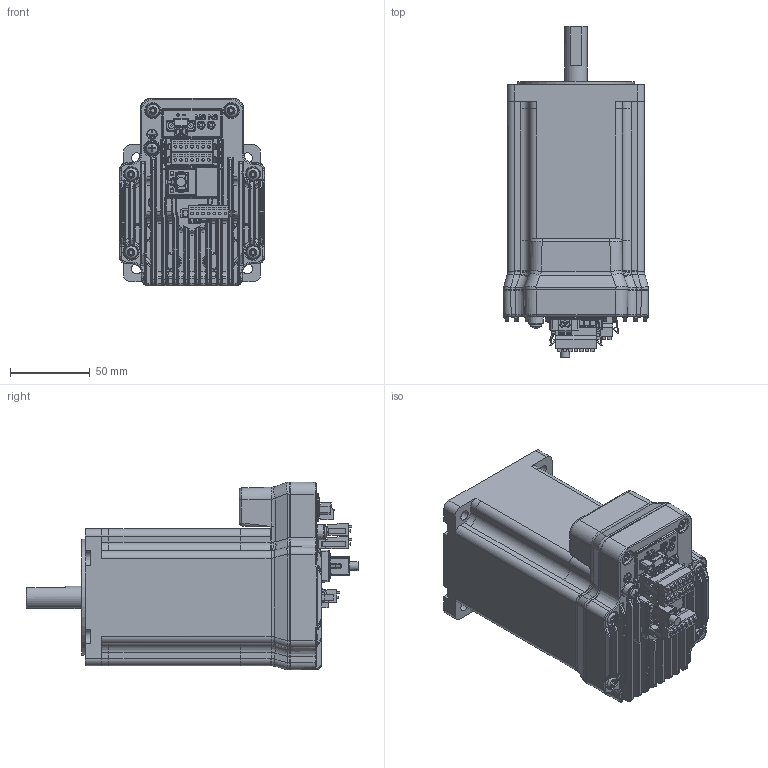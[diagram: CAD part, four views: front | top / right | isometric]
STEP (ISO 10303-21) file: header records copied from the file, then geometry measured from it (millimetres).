
FILE_DESCRIPTION(('LMDXE85 Triple-Stack Web Model.stp'),'1');
FILE_NAME('T:/Kubotek Models For Design Assemblies/On-Line web models/LMD34/LMDXE85 Triple-Stack Web Model.stp', '2013-04-05T15:11:13',('P. Bordua, 04/05/13'), ('Schneider Electric Motion USA'), 'KCM Version 1.1.514.0', 'Kubotek KeyCreator', 'Kubotek KeyCreator 2012 11.3.1');
FILE_SCHEMA(('AUTOMOTIVE_DESIGN'));
Length unit declared in the file: inch
Bounding box: 91.24 x 208.7 x 118.13 mm (x, y, z)
Volume: 1089892.7 mm3; surface area: 111310 mm2
Topology: 9 solids, 9 shells, 4727 faces, 11955 edges, 7505 vertices
Faces by surface type: plane 2601, cylinder 1115, bspline 784, sphere 87, torus 78, cone 60, extrusion 2
Full cylindrical faces by diameter (mm): 1.6 x31, 1.611 x4, 1.686 x28, 2.5 x2, 3.505 x1, 3.792 x4, 5.004 x2, 5.588 x2, 6.502 x4, 6.858 x1, 7.62 x1, 8 x6, 9.006 x3, 14 x1, 15.748 x1, 66.396 x1, 73 x1
Entity records: 179375 total; most frequent: CARTESIAN_POINT 83137, ORIENTED_EDGE 18428, DIRECTION 16568, EDGE_CURVE 9214, VERTEX_POINT 5745, AXIS2_PLACEMENT_3D 5534, VECTOR 5500, LINE 5498
